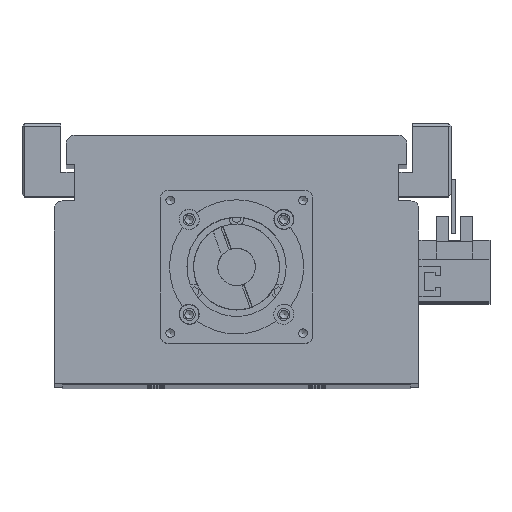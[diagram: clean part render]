
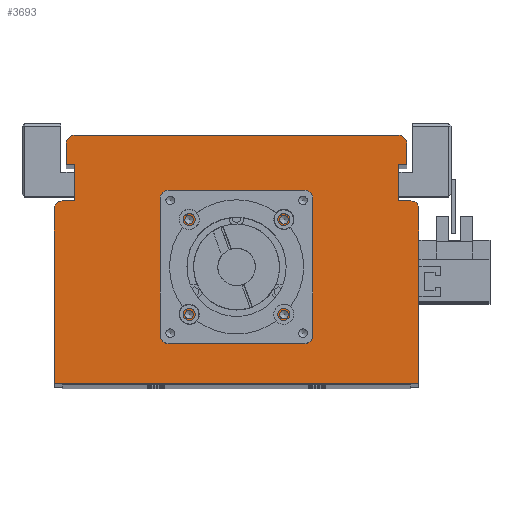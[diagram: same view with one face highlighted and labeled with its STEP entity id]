
A CAD part, top view. The second image highlights one B-rep face of the part: STEP entity #3693.
In plain terms, the highlighted planar face has unit normal (0, 0, 1).
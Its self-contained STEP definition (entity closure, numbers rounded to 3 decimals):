
#2251=CARTESIAN_POINT('',(19.321,61.5,845.0));
#2252=VERTEX_POINT('',#2251);
#2253=CARTESIAN_POINT('',(17.7,61.5,845.0));
#2254=DIRECTION('',(0.0,0.0,-1.0));
#2255=DIRECTION('',(1.0,0.0,0.0));
#2256=AXIS2_PLACEMENT_3D('',#2253,#2254,#2255);
#2257=CIRCLE('',#2256,1.621);
#2258=EDGE_CURVE('',#2252,#2252,#2257,.T.);
#2330=CARTESIAN_POINT('',(19.321,26.1,845.0));
#2331=VERTEX_POINT('',#2330);
#2332=CARTESIAN_POINT('',(17.7,26.1,845.0));
#2333=DIRECTION('',(0.0,0.0,-1.0));
#2334=DIRECTION('',(1.0,0.0,0.0));
#2335=AXIS2_PLACEMENT_3D('',#2332,#2333,#2334);
#2336=CIRCLE('',#2335,1.621);
#2337=EDGE_CURVE('',#2331,#2331,#2336,.T.);
#2409=CARTESIAN_POINT('',(-16.079,26.1,845.0));
#2410=VERTEX_POINT('',#2409);
#2411=CARTESIAN_POINT('',(-17.7,26.1,845.0));
#2412=DIRECTION('',(0.0,0.0,-1.0));
#2413=DIRECTION('',(1.0,0.0,0.0));
#2414=AXIS2_PLACEMENT_3D('',#2411,#2412,#2413);
#2415=CIRCLE('',#2414,1.621);
#2416=EDGE_CURVE('',#2410,#2410,#2415,.T.);
#2488=CARTESIAN_POINT('',(-16.079,61.5,845.0));
#2489=VERTEX_POINT('',#2488);
#2490=CARTESIAN_POINT('',(-17.7,61.5,845.0));
#2491=DIRECTION('',(0.0,0.0,-1.0));
#2492=DIRECTION('',(1.0,0.0,0.0));
#2493=AXIS2_PLACEMENT_3D('',#2490,#2491,#2492);
#2494=CIRCLE('',#2493,1.621);
#2495=EDGE_CURVE('',#2489,#2489,#2494,.T.);
#2529=CARTESIAN_POINT('',(26.5,43.8,845.0));
#2530=VERTEX_POINT('',#2529);
#2531=CARTESIAN_POINT('',(24.5,43.8,845.0));
#2532=DIRECTION('',(0.0,0.0,-1.0));
#2533=DIRECTION('',(1.0,0.0,0.0));
#2534=AXIS2_PLACEMENT_3D('',#2531,#2532,#2533);
#2535=CIRCLE('',#2534,2.0);
#2536=EDGE_CURVE('',#2530,#2530,#2535,.T.);
#2578=CARTESIAN_POINT('',(-22.5,43.8,845.0));
#2579=VERTEX_POINT('',#2578);
#2580=CARTESIAN_POINT('',(-24.5,43.8,845.0));
#2581=DIRECTION('',(0.0,0.0,-1.0));
#2582=DIRECTION('',(1.0,0.0,0.0));
#2583=AXIS2_PLACEMENT_3D('',#2580,#2581,#2582);
#2584=CIRCLE('',#2583,2.0);
#2585=EDGE_CURVE('',#2579,#2579,#2584,.T.);
#3509=CARTESIAN_POINT('',(21.05,43.8,845.0));
#3510=VERTEX_POINT('',#3509);
#3511=CARTESIAN_POINT('',(0.0,43.8,845.0));
#3512=DIRECTION('',(0.0,0.0,-1.0));
#3513=DIRECTION('',(-1.0,0.0,0.0));
#3514=AXIS2_PLACEMENT_3D('',#3511,#3512,#3513);
#3515=CIRCLE('',#3514,21.05);
#3516=EDGE_CURVE('',#3510,#3510,#3515,.T.);
#3533=CARTESIAN_POINT('',(0.,29.533,845.0));
#3534=DIRECTION('',(0.0,0.0,1.0));
#3535=DIRECTION('',(1.0,0.0,0.0));
#3536=AXIS2_PLACEMENT_3D('',#3533,#3534,#3535);
#3537=PLANE('',#3536);
#3538=CARTESIAN_POINT('',(-65.,68.5,845.0));
#3539=VERTEX_POINT('',#3538);
#3540=CARTESIAN_POINT('',(-60.5,68.5,845.));
#3541=VERTEX_POINT('',#3540);
#3542=CARTESIAN_POINT('',(-65.,68.5,845.0));
#3543=DIRECTION('',(1.0,0.0,0.0));
#3544=VECTOR('',#3543,4.5);
#3545=LINE('',#3542,#3544);
#3546=EDGE_CURVE('',#3539,#3541,#3545,.T.);
#3547=ORIENTED_EDGE('',*,*,#3546,.F.);
#3548=CARTESIAN_POINT('',(-68.,65.5,845.0));
#3549=VERTEX_POINT('',#3548);
#3550=CARTESIAN_POINT('',(-65.,65.5,845.0));
#3551=DIRECTION('',(0.0,0.0,-1.0));
#3552=DIRECTION('',(0.0,1.0,0.0));
#3553=AXIS2_PLACEMENT_3D('',#3550,#3551,#3552);
#3554=CIRCLE('',#3553,3.);
#3555=EDGE_CURVE('',#3549,#3539,#3554,.T.);
#3556=ORIENTED_EDGE('',*,*,#3555,.F.);
#3557=CARTESIAN_POINT('',(-68.0,0.5,845.0));
#3558=VERTEX_POINT('',#3557);
#3559=CARTESIAN_POINT('',(-68.0,0.5,845.0));
#3560=DIRECTION('',(0.0,1.0,0.0));
#3561=VECTOR('',#3560,65.0);
#3562=LINE('',#3559,#3561);
#3563=EDGE_CURVE('',#3558,#3549,#3562,.T.);
#3564=ORIENTED_EDGE('',*,*,#3563,.F.);
#3565=CARTESIAN_POINT('',(68.0,0.5,845.0));
#3566=VERTEX_POINT('',#3565);
#3567=CARTESIAN_POINT('',(68.0,0.5,845.0));
#3568=DIRECTION('',(-1.0,0.0,0.0));
#3569=VECTOR('',#3568,136.0);
#3570=LINE('',#3567,#3569);
#3571=EDGE_CURVE('',#3566,#3558,#3570,.T.);
#3572=ORIENTED_EDGE('',*,*,#3571,.F.);
#3573=CARTESIAN_POINT('',(68.0,65.5,845.0));
#3574=VERTEX_POINT('',#3573);
#3575=CARTESIAN_POINT('',(68.0,65.5,845.0));
#3576=DIRECTION('',(0.0,-1.0,0.0));
#3577=VECTOR('',#3576,65.0);
#3578=LINE('',#3575,#3577);
#3579=EDGE_CURVE('',#3574,#3566,#3578,.T.);
#3580=ORIENTED_EDGE('',*,*,#3579,.F.);
#3581=CARTESIAN_POINT('',(65.,68.5,845.0));
#3582=VERTEX_POINT('',#3581);
#3583=CARTESIAN_POINT('',(65.,65.5,845.0));
#3584=DIRECTION('',(0.0,0.0,-1.0));
#3585=DIRECTION('',(1.0,0.0,0.0));
#3586=AXIS2_PLACEMENT_3D('',#3583,#3584,#3585);
#3587=CIRCLE('',#3586,3.);
#3588=EDGE_CURVE('',#3582,#3574,#3587,.T.);
#3589=ORIENTED_EDGE('',*,*,#3588,.F.);
#3590=CARTESIAN_POINT('',(60.5,68.5,845.));
#3591=VERTEX_POINT('',#3590);
#3592=CARTESIAN_POINT('',(60.5,68.5,845.));
#3593=DIRECTION('',(1.0,0.0,0.0));
#3594=VECTOR('',#3593,4.5);
#3595=LINE('',#3592,#3594);
#3596=EDGE_CURVE('',#3591,#3582,#3595,.T.);
#3597=ORIENTED_EDGE('',*,*,#3596,.F.);
#3598=CARTESIAN_POINT('',(60.5,82.,845.0));
#3599=VERTEX_POINT('',#3598);
#3600=CARTESIAN_POINT('',(60.5,82.,845.0));
#3601=DIRECTION('',(0.0,-1.0,0.0));
#3602=VECTOR('',#3601,13.5);
#3603=LINE('',#3600,#3602);
#3604=EDGE_CURVE('',#3599,#3591,#3603,.T.);
#3605=ORIENTED_EDGE('',*,*,#3604,.F.);
#3606=CARTESIAN_POINT('',(63.5,82.,845.0));
#3607=VERTEX_POINT('',#3606);
#3608=CARTESIAN_POINT('',(63.5,82.,845.0));
#3609=DIRECTION('',(-1.0,0.0,0.0));
#3610=VECTOR('',#3609,3.0);
#3611=LINE('',#3608,#3610);
#3612=EDGE_CURVE('',#3607,#3599,#3611,.T.);
#3613=ORIENTED_EDGE('',*,*,#3612,.F.);
#3614=CARTESIAN_POINT('',(63.5,90.0,845.0));
#3615=VERTEX_POINT('',#3614);
#3616=CARTESIAN_POINT('',(63.5,90.0,845.0));
#3617=DIRECTION('',(0.0,-1.0,0.0));
#3618=VECTOR('',#3617,8.);
#3619=LINE('',#3616,#3618);
#3620=EDGE_CURVE('',#3615,#3607,#3619,.T.);
#3621=ORIENTED_EDGE('',*,*,#3620,.F.);
#3622=CARTESIAN_POINT('',(60.5,93.,845.0));
#3623=VERTEX_POINT('',#3622);
#3624=CARTESIAN_POINT('',(60.5,90.0,845.0));
#3625=DIRECTION('',(0.0,0.0,-1.0));
#3626=DIRECTION('',(1.0,0.0,0.0));
#3627=AXIS2_PLACEMENT_3D('',#3624,#3625,#3626);
#3628=CIRCLE('',#3627,3.);
#3629=EDGE_CURVE('',#3623,#3615,#3628,.T.);
#3630=ORIENTED_EDGE('',*,*,#3629,.F.);
#3631=CARTESIAN_POINT('',(-60.5,93.0,845.0));
#3632=VERTEX_POINT('',#3631);
#3633=CARTESIAN_POINT('',(-60.5,93.0,845.0));
#3634=DIRECTION('',(1.0,0.0,0.0));
#3635=VECTOR('',#3634,121.0);
#3636=LINE('',#3633,#3635);
#3637=EDGE_CURVE('',#3632,#3623,#3636,.T.);
#3638=ORIENTED_EDGE('',*,*,#3637,.F.);
#3639=CARTESIAN_POINT('',(-63.5,90.0,845.0));
#3640=VERTEX_POINT('',#3639);
#3641=CARTESIAN_POINT('',(-60.5,90.0,845.0));
#3642=DIRECTION('',(0.0,0.0,-1.0));
#3643=DIRECTION('',(0.0,1.0,0.0));
#3644=AXIS2_PLACEMENT_3D('',#3641,#3642,#3643);
#3645=CIRCLE('',#3644,3.);
#3646=EDGE_CURVE('',#3640,#3632,#3645,.T.);
#3647=ORIENTED_EDGE('',*,*,#3646,.F.);
#3648=CARTESIAN_POINT('',(-63.5,82.,845.0));
#3649=VERTEX_POINT('',#3648);
#3650=CARTESIAN_POINT('',(-63.5,82.,845.0));
#3651=DIRECTION('',(0.0,1.0,0.0));
#3652=VECTOR('',#3651,8.);
#3653=LINE('',#3650,#3652);
#3654=EDGE_CURVE('',#3649,#3640,#3653,.T.);
#3655=ORIENTED_EDGE('',*,*,#3654,.F.);
#3656=CARTESIAN_POINT('',(-60.5,82.,845.0));
#3657=VERTEX_POINT('',#3656);
#3658=CARTESIAN_POINT('',(-60.5,82.,845.0));
#3659=DIRECTION('',(-1.0,0.0,0.0));
#3660=VECTOR('',#3659,3.);
#3661=LINE('',#3658,#3660);
#3662=EDGE_CURVE('',#3657,#3649,#3661,.T.);
#3663=ORIENTED_EDGE('',*,*,#3662,.F.);
#3664=CARTESIAN_POINT('',(-60.5,68.5,845.));
#3665=DIRECTION('',(0.0,1.0,0.0));
#3666=VECTOR('',#3665,13.5);
#3667=LINE('',#3664,#3666);
#3668=EDGE_CURVE('',#3541,#3657,#3667,.T.);
#3669=ORIENTED_EDGE('',*,*,#3668,.F.);
#3670=EDGE_LOOP('',(#3547,#3556,#3564,#3572,#3580,#3589,#3597,#3605,#3613,#3621,#3630,#3638,#3647,#3655,#3663,#3669));
#3671=FACE_OUTER_BOUND('',#3670,.T.);
#3672=ORIENTED_EDGE('',*,*,#2258,.T.);
#3673=EDGE_LOOP('',(#3672));
#3674=FACE_BOUND('',#3673,.T.);
#3675=ORIENTED_EDGE('',*,*,#2337,.T.);
#3676=EDGE_LOOP('',(#3675));
#3677=FACE_BOUND('',#3676,.T.);
#3678=ORIENTED_EDGE('',*,*,#2416,.T.);
#3679=EDGE_LOOP('',(#3678));
#3680=FACE_BOUND('',#3679,.T.);
#3681=ORIENTED_EDGE('',*,*,#2495,.T.);
#3682=EDGE_LOOP('',(#3681));
#3683=FACE_BOUND('',#3682,.T.);
#3684=ORIENTED_EDGE('',*,*,#2536,.T.);
#3685=EDGE_LOOP('',(#3684));
#3686=FACE_BOUND('',#3685,.T.);
#3687=ORIENTED_EDGE('',*,*,#2585,.T.);
#3688=EDGE_LOOP('',(#3687));
#3689=FACE_BOUND('',#3688,.T.);
#3690=ORIENTED_EDGE('',*,*,#3516,.T.);
#3691=EDGE_LOOP('',(#3690));
#3692=FACE_BOUND('',#3691,.T.);
#3693=ADVANCED_FACE('',(#3671,#3674,#3677,#3680,#3683,#3686,#3689,#3692),#3537,.T.);
